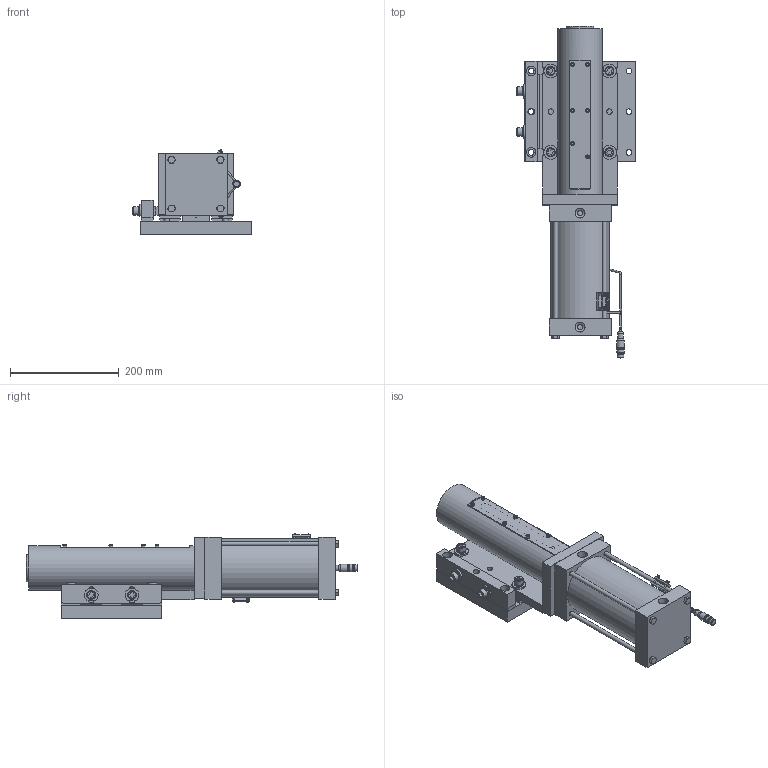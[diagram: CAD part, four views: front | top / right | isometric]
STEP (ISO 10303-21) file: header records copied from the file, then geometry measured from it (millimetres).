
FILE_DESCRIPTION(/* description */ (''),/* implementation_level */ '2;1');
FILE_NAME(/* name */ 'C:\TEMP\HP5 Bull Pins\HP5-P1M2L3000.stp',/* time_stamp */ '2016-01-20T07:15:45-05:00',/* author */ ('klabrecque'),/* organization */ (''),/* preprocessor_version */ 'ST-DEVELOPER v15.2',/* originating_system */ 'Autodesk Inventor 2014',/* authorisation */ '');
FILE_SCHEMA (('AUTOMOTIVE_DESIGN { 1 0 10303 214 3 1 1 }'));
Length unit declared in the file: millimetre
Products named in the file (35): HP5E01; M10X1.5-50 SHCS; 12mmX40 DOWEL; NL10; DSC-D-M10; S01674E03; S01674E04; S01674E02; 0.313-24X10.000 HEX; HP5E03; S01674_BIM-UNT-Cable-100 STK; S01674_BIM-UNT-Cable2; S01674_CONNECTOR; S01674_SWITCH; M3X0.5-18 SHCS; 3mm_FLAT_WASHER; S01674-100_SWITCH; HP5E12; M4X0.7-10 SHCS; M6X1-20 SHCS; NL6; HP5E13; HP5E14; HP5E10; HP5E08; HP5E09; HP5E15; HP5E11; M10X1.5-45 SHCS; End Weld; Side Weld; Side Weld mid; Side Weld2; 6950160; HP5-P1M2L3000
Bounding box: 218.1 x 611.57 x 154.86 mm (x, y, z)
Volume: 4756180.5 mm3; surface area: 970256.7 mm2
Topology: 72 solids, 72 shells, 1242 faces, 2911 edges, 1900 vertices
Faces by surface type: plane 777, cylinder 314, cone 122, bspline 16, torus 13
Full cylindrical faces by diameter (mm): 1.9 x2, 2.459 x4, 2.6 x2, 3 x8, 3.175 x6, 3.2 x10, 3.242 x8, 3.5 x4, 4 x9, 4.134 x9, 4.917 x4, 5 x2, 5.5 x10, 6 x2, 6.35 x2, 6.5 x2, 6.647 x1, 6.782 x4, 7 x14, 7.938 x4, 8.376 x8, 8.5 x8, 9.6 x1, 10 x15, 10.1 x6, 10.2 x1, 10.49 x1, 10.5 x8, 10.7 x6, 10.8 x1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
Entity records: 23896 total; most frequent: CARTESIAN_POINT 4736, DIRECTION 3922, ORIENTED_EDGE 3264, EDGE_CURVE 1631, AXIS2_PLACEMENT_3D 1445, EDGE_LOOP 1252, VERTEX_POINT 1187, LINE 1032
